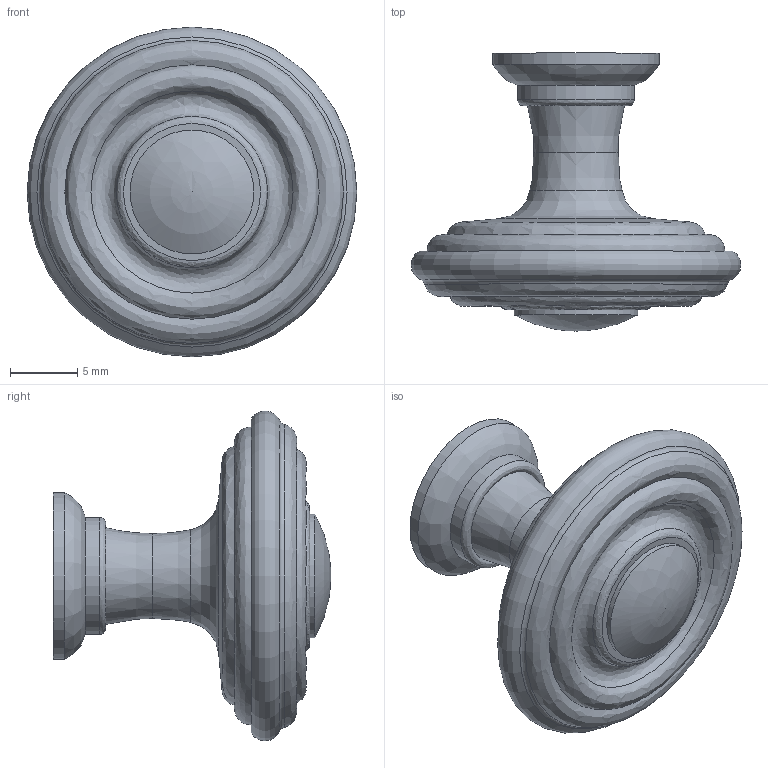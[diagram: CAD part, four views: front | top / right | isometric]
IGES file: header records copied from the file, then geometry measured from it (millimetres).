
Start section: Data from Parasolid IGES Translator 15.0.47, Copyright(c) 2006 Siemens P LM Software. All Rights Reserved.
Global section: file name: 9113446.igs; native system:  By UGS Corp.; preprocessor: XPlus GENERIC/IGES 3.0; author: Noname; organization: Noname; date: 20140122.100535; units: millimetre
Bounding box: 24.5 x 20.65 x 24.5 mm (x, y, z)
Surface area: 1821.5 mm2 (no closed solid volume)
Topology: 0 solids, 0 shells, 24 faces, 89 edges, 67 vertices
Faces by surface type: revolution 19, extrusion 5
